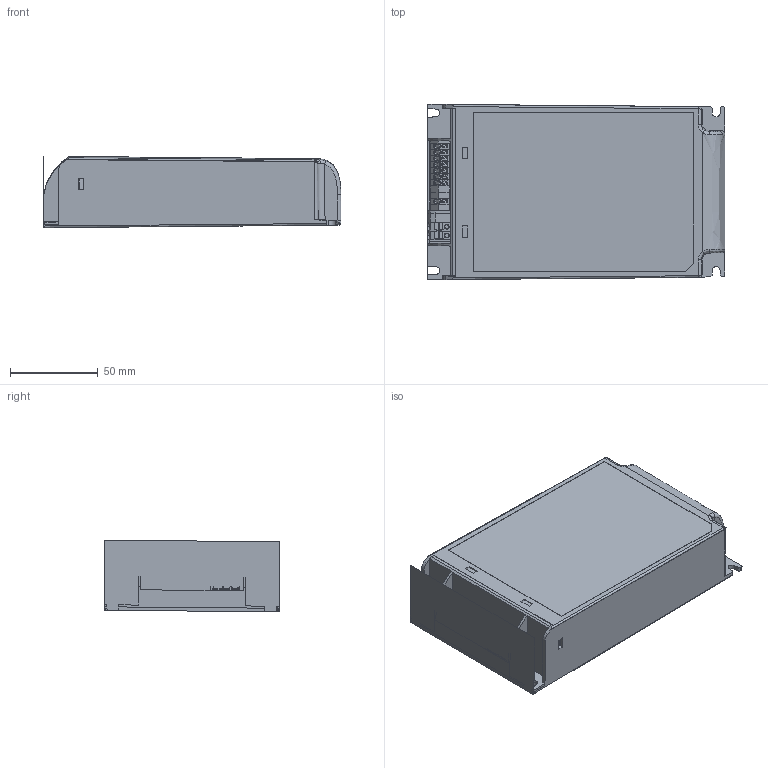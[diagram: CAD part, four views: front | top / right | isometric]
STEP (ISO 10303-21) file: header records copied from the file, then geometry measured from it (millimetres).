
FILE_DESCRIPTION((''),'2;1');
FILE_NAME('3D-EUCI-170105GIA_ASM','2023-07-04T09:07:52',('HUNGCHI.CHEN'),(''),'CREO PARAMETRIC BY PTC INC, 2020053','CREO PARAMETRIC BY PTC INC, 2020053','');
FILE_SCHEMA(('CONFIG_CONTROL_DESIGN'));
Length unit declared in the file: millimetre
Products named in the file (33): BOARD-897_AF0; 250_SPACER; 250_GRAY_Y_B; 250_PINK_Y_F; 250_RED_Y_B; 250_WHITE_Y_F; 250_LIGHT_BLUE_Y_B_AF0; 250_BLACK_Y_F; 250_GRAY_N; 250_GREEN_Y_F; 250_ASSY_ASM_AF0_ASM; CN2_AF0_ASM; PCB_AF0_ASM; 804_SPACER_3; 804_GRAY_N_3; 804_WHITE_Y_3; 804_BLACK_Y_3; 804_ASSY_ASM_2_ASM; 804-ASS_ASM; HOUSING; EUCI-170105GIA-PWBA-ASS_ASM; 250_SPACER_3; 250_GRAY_Y_B_5; 250_PINK_Y_F_5; 250_RED_Y_B_6; 250_WHITE_Y_F_5; 250_LIGHT_BLUE_Y_B_5; 250_BLACK_Y_F_5; 250_GRAY_N_2; 250_GREEN_Y_F_5; 250_ASSY_ASM; COVER; 3D-EUCI-170105GIA_ASM
Assembly tree (38 placements, depth 6):
  3D-EUCI-170105GIA_ASM
    EUCI-170105GIA-PWBA-ASS_ASM
      PCB_AF0_ASM
        BOARD-897_AF0
        CN2_AF0_ASM
          250_ASSY_ASM_AF0_ASM
            250_SPACER
            250_GRAY_Y_B
            250_PINK_Y_F
            250_RED_Y_B  x2
            250_WHITE_Y_F
            250_LIGHT_BLUE_Y_B_AF0
            250_BLACK_Y_F
            250_GRAY_N  x3
            250_GREEN_Y_F
      804-ASS_ASM
        804_ASSY_ASM_2_ASM
          804_SPACER_3
          804_GRAY_N_3
          804_WHITE_Y_3
          804_BLACK_Y_3
      HOUSING
    250_ASSY_ASM
      250_SPACER_3
      250_GRAY_Y_B_5
      250_PINK_Y_F_5
      250_RED_Y_B_6  x2
      250_WHITE_Y_F_5
      250_LIGHT_BLUE_Y_B_5
      250_BLACK_Y_F_5
      250_GRAY_N_2  x3
      250_GREEN_Y_F_5
    COVER
Bounding box: 170 x 100.33 x 40.83 mm (x, y, z)
Volume: 131891.5 mm3; surface area: 166151.5 mm2
Topology: 31 solids, 33 shells, 1883 faces, 5318 edges, 3530 vertices
Faces by surface type: plane 1054, cylinder 779, cone 36, bspline 10, sphere 4
Entity records: 57976 total; most frequent: CARTESIAN_POINT 11790, ORIENTED_EDGE 9544, DIRECTION 9444, EDGE_CURVE 4780, VECTOR 3190, LINE 3190, VERTEX_POINT 3172, AXIS2_PLACEMENT_3D 3127
